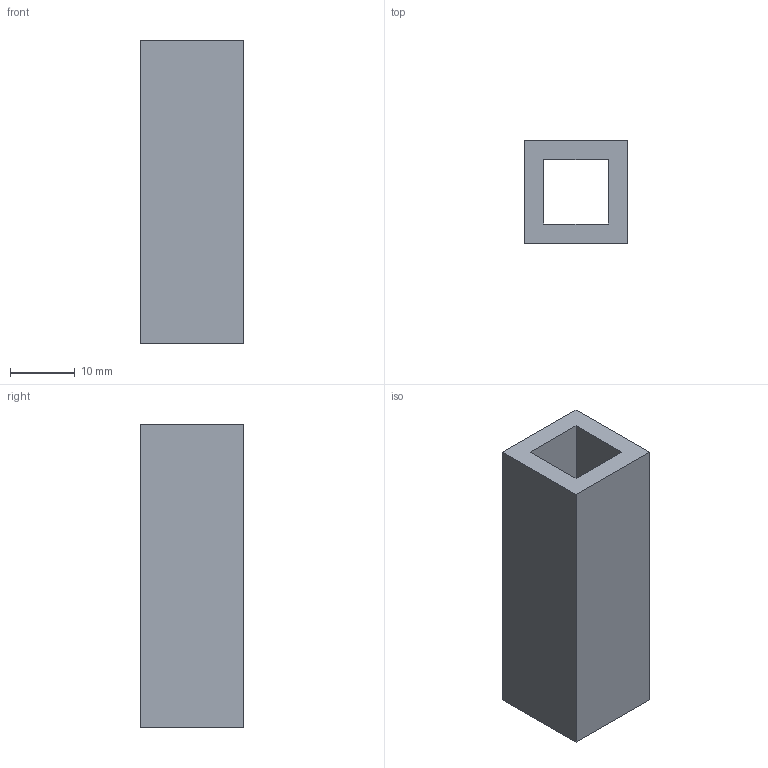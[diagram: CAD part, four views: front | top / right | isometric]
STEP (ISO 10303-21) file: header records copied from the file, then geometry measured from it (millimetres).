
FILE_DESCRIPTION(('Open CASCADE Model'),'2;1');
FILE_NAME('Open CASCADE Shape Model','2026-10-04T01:02:33',('Author'),( 'Open CASCADE'),'Open CASCADE STEP processor 8.0','Open CASCADE 8.0' ,'Unknown');
FILE_SCHEMA(('AUTOMOTIVE_DESIGN { 1 0 10303 214 1 1 1 1 }'));
Length unit declared in the file: millimetre
Products named in the file (1): Open CASCADE STEP translator 8.0 322
Bounding box: 16 x 16 x 47 mm (x, y, z)
Volume: 7332 mm3; surface area: 5200 mm2
Topology: 1 solids, 1 shells, 10 faces, 24 edges, 16 vertices
Faces by surface type: plane 10
Entity records: 614 total; most frequent: CARTESIAN_POINT 99, DIRECTION 94, LINE 72, VECTOR 72, ORIENTED_EDGE 48, PCURVE 48, DEFINITIONAL_REPRESENTATION 48, EDGE_CURVE 24
